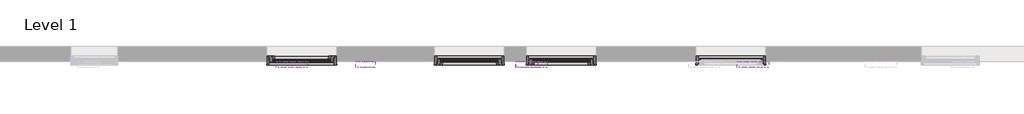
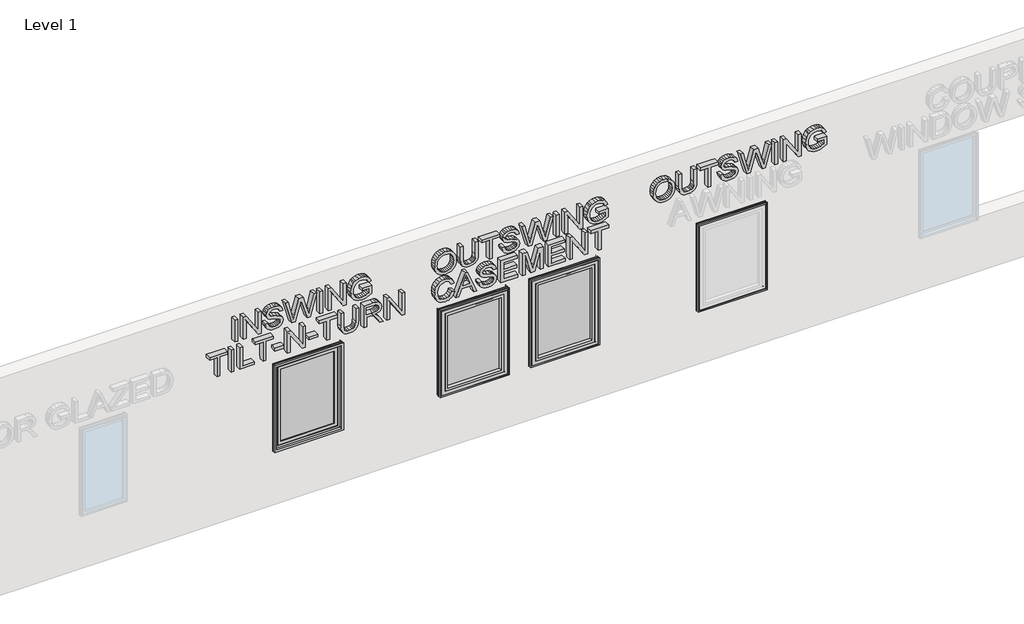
# One storey, part 2 of 4: 14 proxies.
"""IFC4 building model written with IfcOpenShell, lengths in millimetres."""

from ifc_helpers import new_model, si_unit, frame, origin, place, context, project, spatial, polyline, outline, extrude, transform, mapped, element, save
from components import awning_frame_default_150c298d, casement_frame_default_7da590ba, casement_frame_default_019ad32e, casement_glazing_default_a0a45db6, casement_glazing_default_e3ecf4c6, hopper_frame_default_f40292db, hopper_glazing_default_b8ed1175

model = new_model("IFC4")

# Units and contexts
model_context = context("Model", 3, world=origin())
ifc_project = project(units=[si_unit("LENGTHUNIT", "METRE", prefix="MILLI")], contexts=[model_context])

# Site, building, storey
site = spatial("IfcSite", under=ifc_project)
building = spatial("IfcBuilding", under=site)
storey = spatial("IfcBuildingStorey", under=building, Name="Level 1", Elevation=0.0)

# Proxies
placement = place(None, origin())
element("IfcBuildingElementProxy", 1, Name="600mm Arial", ObjectType="600mm Arial", at=placement, inside=storey, context=model_context, shape_type="SweptSolid", body=[
    extrude(outline(polyline([(2116.3469549, -12855.1897662), (2116.3469549, -12816.7090382), (2382.9590495, -12816.7090382), (2382.9590495, -12717.5934766), (2421.3372722, -12717.5934766), (2421.3372722, -12955.6525414), (2382.5343844, -12955.6525414), (2382.5343844, -12855.5997878), (2116.3469549, -12855.1897662)])), frame((0.0, 4149.5439366, 0.0), z_axis=(0.0, 1.0, 0.0), x_axis=(0.0, 0.0, 1.0)), (0.0, 0.0, 1.0), 76.2),
    extrude(outline(polyline([(2116.9180563, -12669.6536465), (2116.9180563, -12631.1143439), (2421.6008575, -12631.1143439), (2421.6008575, -12670.1222425), (2116.9180563, -12669.6536465)])), frame((0.0, 4149.5439366, 0.0), z_axis=(0.0, 1.0, 0.0), x_axis=(0.0, 0.0, 1.0)), (0.0, 0.0, 1.0), 76.2),
    extrude(outline(polyline([(2117.2695034, -12555.4415269), (2117.2695034, -12364.6193983), (2155.9259549, -12364.6193983), (2155.9259549, -12517.0193734), (2421.9523045, -12517.0193734), (2421.9523045, -12555.910123), (2117.2695034, -12555.4415269)])), frame((0.0, 4149.5439366, 0.0), z_axis=(0.0, 1.0, 0.0), x_axis=(0.0, 0.0, 1.0)), (0.0, 0.0, 1.0), 76.2),
    extrude(outline(polyline([(2118.2213391, -12246.058462), (2118.2213391, -12207.5777339), (2384.8334337, -12207.5777339), (2384.8334337, -12108.4621724), (2423.2116564, -12108.4621724), (2423.2116564, -12346.5212371), (2384.4087685, -12346.5212371), (2384.4087685, -12246.4684835), (2118.2213391, -12246.058462)])), frame((0.0, 4149.5439366, 0.0), z_axis=(0.0, 1.0, 0.0), x_axis=(0.0, 0.0, 1.0)), (0.0, 0.0, 1.0), 76.2),
    extrude(outline(polyline([(2209.1225067, -12088.9435794), (2209.1225067, -11969.9140471), (2247.5593039, -11969.9140471), (2247.5593039, -12089.0021539), (2209.1225067, -12088.9435794)])), frame((0.0, 4149.5439366, 0.0), z_axis=(0.0, 1.0, 0.0), x_axis=(0.0, 0.0, 1.0)), (0.0, 0.0, 1.0), 76.2),
    extrude(outline(polyline([(2119.2171057, -11922.5160311), (2119.2171057, -11883.9767285), (2360.6965855, -11883.9767285), (2119.823901, -11724.8530724), (2119.823901, -11684.1055193), (2424.5149391, -11684.1055193), (2424.5149391, -11723.1134179), (2183.1098162, -11723.1134179), (2423.9081439, -11882.237074), (2423.9081439, -11922.9846271), (2119.2171057, -11922.5160311)])), frame((0.0, 4149.5439366, 0.0), z_axis=(0.0, 1.0, 0.0), x_axis=(0.0, 0.0, 1.0)), (0.0, 0.0, 1.0), 76.2),
    extrude(outline(polyline([(2210.4990076, -11641.6127779), (2210.4990076, -11522.5832455), (2248.9358048, -11522.5832455), (2248.9358048, -11641.6713524), (2210.4990076, -11641.6127779)])), frame((0.0, 4149.5439366, 0.0), z_axis=(0.0, 1.0, 0.0), x_axis=(0.0, 0.0, 1.0)), (0.0, 0.0, 1.0), 76.2),
    extrude(outline(polyline([(2120.8279046, -11398.985242), (2120.8279046, -11360.5045139), (2387.4399992, -11360.5045139), (2387.4399992, -11261.3889524), (2425.8182219, -11261.3889524), (2425.8182219, -11499.4480171), (2387.0153341, -11499.4480171), (2387.0153341, -11399.3952635), (2120.8279046, -11398.985242)])), frame((0.0, 4149.5439366, 0.0), z_axis=(0.0, 1.0, 0.0), x_axis=(0.0, 0.0, 1.0)), (0.0, 0.0, 1.0), 76.2),
    extrude(outline(polyline([(2426.6236214, -11018.8053473), (2252.1982367, -11018.8053473), (2204.5206815, -11022.9367366), (2187.5859794, -11028.9029405), (2175.2539943, -11037.2906334), (2166.4685013, -11048.5148264), (2160.1732758, -11062.9905305), (2155.0536266, -11101.6964722), (2157.5065965, -11126.1304764), (2165.0284164, -11146.4904128), (2177.2214204, -11162.1244291), (2193.6879425, -11172.3806731), (2217.4926858, -11178.0865083), (2251.7003534, -11180.0692984), (2426.0671635, -11180.0692984), (2426.0671635, -11218.6765566), (2250.2447811, -11218.6765566), (2207.0244631, -11215.1122414), (2174.0274123, -11206.3387552), (2149.4534781, -11190.8339455), (2131.5025102, -11167.6163301), (2120.555616, -11136.6777871), (2116.9939028, -11098.0101945), (2121.3445593, -11058.5025428), (2134.1274522, -11027.4232418), (2153.623251, -11004.7112326), (2178.1126251, -10990.3054565), (2209.8217903, -10982.6512553), (2250.9769625, -10980.1939707), (2426.6821959, -10980.1939707), (2426.6236214, -11018.8053473)])), frame((0.0, 4149.5439366, 0.0), z_axis=(0.0, 1.0, 0.0), x_axis=(0.0, 0.0, 1.0)), (0.0, 0.0, 1.0), 76.2),
    extrude(outline(polyline([(2122.3215545, -10913.6423084), (2122.3215545, -10875.1030058), (2255.6861763, -10875.1030058), (2255.6861763, -10829.5604949), (2254.5571111, -10807.4723923), (2247.3630328, -10789.344191), (2227.6831817, -10769.1699153), (2185.9827233, -10740.4139392), (2122.9757127, -10700.587482), (2122.9757127, -10656.345157), (2205.4916798, -10707.3848601), (2244.5827843, -10738.3635334), (2260.8003514, -10760.051485), (2271.0096979, -10722.57881), (2279.1546717, -10708.0692953), (2289.3265124, -10696.3776626), (2314.2464987, -10680.9786793), (2344.2653606, -10675.9124964), (2368.3752821, -10679.1004086), (2390.2911032, -10688.5090143), (2407.9432443, -10703.1188234), (2419.2621257, -10721.9103459), (2425.3454826, -10747.5917157), (2427.2910504, -10782.8710665), (2427.2910504, -10914.1109044), (2122.3215545, -10913.6423084)]), holes=[polyline([(2293.887989, -10875.6301764), (2388.9336491, -10875.6301764), (2388.9336491, -10781.1180668), (2386.0277824, -10750.9841238), (2376.2208336, -10730.1803052), (2361.2936703, -10718.0605645), (2342.7354315, -10713.9788556), (2329.2796441, -10716.0473458), (2316.870457, -10722.3388476), (2306.5958254, -10732.6986991), (2299.5437043, -10746.9722382), (2295.4421191, -10765.9486771), (2294.0190953, -10790.4172278), (2293.887989, -10875.6301764)])]), frame((0.0, 4149.5439366, 0.0), z_axis=(0.0, 1.0, 0.0), x_axis=(0.0, 0.0, 1.0)), (0.0, 0.0, 1.0), 76.2),
    extrude(outline(polyline([(2123.2587466, -10609.0766562), (2123.2587466, -10570.5373537), (2364.7382264, -10570.5373537), (2123.8655419, -10411.4136975), (2123.8655419, -10370.6661445), (2428.55658, -10370.6661445), (2428.55658, -10409.6740431), (2187.1514571, -10409.6740431), (2427.9497848, -10568.7976992), (2427.9497848, -10609.5452523), (2123.2587466, -10609.0766562)])), frame((0.0, 4149.5439366, 0.0), z_axis=(0.0, 1.0, 0.0), x_axis=(0.0, 0.0, 1.0)), (0.0, 0.0, 1.0), 76.2),
])
element("IfcBuildingElementProxy", 2, Name="600mm Arial", ObjectType="600mm Arial", at=placement, inside=storey, context=model_context, shape_type="SweptSolid", body=[
    extrude(outline(polyline([(2645.3362822, -9973.8539131), (2606.3959733, -9969.3841714), (2569.5830158, -9956.2211422), (2537.6199283, -9934.6334544), (2513.2292298, -9904.8897372), (2497.8087998, -9868.8160521), (2492.7565183, -9828.2384604), (2497.5585778, -9790.0427497), (2511.721306, -9754.5713043), (2534.9766458, -9724.3607509), (2567.0565404, -9701.9477163), (2605.9695701, -9688.097532), (2649.7243153, -9683.5755299), (2692.874852, -9688.1325846), (2731.1649655, -9701.523232), (2763.0530097, -9723.3337614), (2786.9973383, -9753.1504626), (2801.9443726, -9789.0182078), (2806.8405335, -9828.9818692), (2804.0741374, -9859.5854316), (2795.9724093, -9887.2261584), (2782.5353491, -9911.9040496), (2763.7629569, -9933.6191052), (2740.2812461, -9951.309009), (2712.71623, -9963.9114449), (2681.0679087, -9971.426413), (2645.3362822, -9973.8539131)]), holes=[polyline([(2645.081647, -9935.7820626), (2675.9481691, -9933.8926261), (2702.0727128, -9928.0197635), (2723.455278, -9918.1634748), (2740.0958648, -9904.3237599), (2752.5902285, -9887.7200571), (2761.5341245, -9869.5718044), (2766.9275528, -9849.879002), (2768.7705134, -9828.6416497), (2765.171248, -9799.1570993), (2754.1826271, -9772.7170598), (2736.4694007, -9750.7735491), (2712.6963185, -9734.7785849), (2683.5968823, -9724.9853812), (2649.9045937, -9721.6471516), (2623.0791948, -9723.4537526), (2599.4859871, -9729.0485926), (2579.1249707, -9738.4316718), (2561.9961455, -9751.6029899), (2548.413498, -9767.7130488), (2538.6910143, -9785.9123502), (2532.8286944, -9806.2008939), (2530.8265384, -9828.57868), (2532.6735076, -9850.5918753), (2538.3558178, -9870.6789288), (2547.873469, -9888.8398405), (2561.2264612, -9905.0746103), (2577.9204073, -9918.4476003), (2597.4609203, -9928.0231723), (2619.8480002, -9933.8013264), (2645.081647, -9935.7820626)])]), frame((0.0, 4149.5439366, 0.0), z_axis=(0.0, 1.0, 0.0), x_axis=(0.0, 0.0, 1.0)), (0.0, 0.0, 1.0), 76.2),
    extrude(outline(polyline([(2803.3623261, -9431.8272969), (2628.9369414, -9431.8272969), (2581.2593862, -9435.9586861), (2564.3246841, -9441.9248901), (2551.992699, -9450.312583), (2543.207206, -9461.536776), (2536.9119805, -9476.0124801), (2531.7923313, -9514.7184218), (2534.2453012, -9539.152426), (2541.7671211, -9559.5123624), (2553.9601251, -9575.1463787), (2570.4266472, -9585.4026226), (2594.2313905, -9591.1084579), (2628.4390581, -9593.091248), (2802.8058683, -9593.091248), (2802.8058683, -9631.6985061), (2626.9834858, -9631.6985061), (2583.7631678, -9628.134191), (2550.766117, -9619.3607048), (2526.1921828, -9603.8558951), (2508.2412149, -9580.6382797), (2497.2943207, -9549.6997367), (2493.7326075, -9511.032144), (2498.083264, -9471.5244923), (2510.8661569, -9440.4451913), (2530.3619557, -9417.7331822), (2554.8513298, -9403.3274061), (2586.560495, -9395.6732048), (2627.7156672, -9393.2159202), (2803.4209006, -9393.2159202), (2803.3623261, -9431.8272969)])), frame((0.0, 4149.5439366, 0.0), z_axis=(0.0, 1.0, 0.0), x_axis=(0.0, 0.0, 1.0)), (0.0, 0.0, 1.0), 76.2),
    extrude(outline(polyline([(2499.2945572, -9250.4642704), (2499.2945572, -9211.9835423), (2765.9066518, -9211.9835423), (2765.9066518, -9112.8679808), (2804.2848745, -9112.8679808), (2804.2848745, -9350.9270455), (2765.4819867, -9350.9270455), (2765.4819867, -9250.8742919), (2499.2945572, -9250.4642704)])), frame((0.0, 4149.5439366, 0.0), z_axis=(0.0, 1.0, 0.0), x_axis=(0.0, 0.0, 1.0)), (0.0, 0.0, 1.0), 76.2),
    extrude(outline(polyline([(2604.5601016, -9083.8170676), (2573.7688701, -9079.2052775), (2546.4050377, -9067.2052772), (2523.9692068, -9048.5747349), (2508.0205547, -9024.0713184), (2498.5229898, -8993.3417185), (2495.4404205, -8956.0326256), (2498.4988959, -8925.657682), (2507.4775486, -8898.479741), (2521.7864995, -8875.9004862), (2540.8358698, -8859.3216014), (2562.9420488, -8849.1561671), (2586.4214257, -8845.8172638), (2609.369979, -8848.8528872), (2629.4375464, -8857.8096602), (2646.4372632, -8873.0030275), (2660.1822649, -8894.7484335), (2669.00836, -8920.1686969), (2679.0846762, -8962.1745417), (2689.7040835, -9002.8808005), (2700.1594525, -9024.4023059), (2711.8984522, -9033.5286393), (2726.5188383, -9036.6036986), (2743.6898375, -9032.3809769), (2758.1731245, -9019.5988662), (2768.0564701, -8997.4521386), (2771.4276452, -8965.1355661), (2768.215951, -8933.5423128), (2758.3593838, -8910.7399822), (2742.0085447, -8896.115588), (2719.3140353, -8889.0561437), (2719.3140353, -8850.9854372), (2744.6435316, -8855.3571679), (2767.0474766, -8866.2265426), (2785.4912315, -8883.348355), (2798.823009, -8906.4773989), (2806.878595, -8934.609342), (2809.4937755, -8966.7398521), (2806.8093438, -8996.3816659), (2798.9473309, -9023.1447817), (2786.0892823, -9045.4217762), (2768.4167435, -9061.6052258), (2747.5942498, -9071.4400012), (2725.2863366, -9074.670973), (2705.3483203, -9071.9420437), (2687.4715343, -9063.8843026), (2671.9908704, -9050.4058334), (2659.2412203, -9031.4147197), (2650.1576784, -9008.1035596), (2640.6497334, -8971.685575), (2626.2835448, -8916.2078126), (2618.4424185, -8899.936559), (2609.0752022, -8890.2784317), (2598.0756804, -8885.5042906), (2585.3376376, -8883.8849958), (2572.2536345, -8885.95463), (2559.7700906, -8892.2459031), (2548.8812427, -8902.8548213), (2540.5813277, -8917.877391), (2535.3099093, -8936.4319689), (2533.5065508, -8957.6369116), (2535.7281852, -8981.7355949), (2542.5491344, -9003.3202743), (2553.1092901, -9020.9940988), (2566.5485442, -9033.3602177), (2583.5054788, -9041.3128865), (2604.6186761, -9045.7463611), (2604.5601016, -9083.8170676)])), frame((0.0, 4149.5439366, 0.0), z_axis=(0.0, 1.0, 0.0), x_axis=(0.0, 0.0, 1.0)), (0.0, 0.0, 1.0), 76.2),
    extrude(outline(polyline([(2500.8827043, -8733.9433623), (2500.8827043, -8687.9908298), (2729.5044142, -8622.1438867), (2769.023137, -8610.8144283), (2736.2631133, -8600.5266363), (2501.5201596, -8526.7851819), (2501.5201596, -8486.1119857), (2806.4667749, -8403.9182209), (2806.4667749, -8443.178637), (2604.2431244, -8491.1865772), (2544.192759, -8505.4271588), (2600.066494, -8519.4481845), (2655.7762996, -8538.413483), (2805.9164948, -8582.746442), (2805.9164948, -8639.3320038), (2598.2496879, -8699.071852), (2543.5484395, -8714.8160447), (2605.2932194, -8729.8775527), (2805.3135893, -8778.6767382), (2805.3135893, -8817.9371543), (2500.8827043, -8733.9433623)])), frame((0.0, 4149.5439366, 0.0), z_axis=(0.0, 1.0, 0.0), x_axis=(0.0, 0.0, 1.0)), (0.0, 0.0, 1.0), 76.2),
    extrude(outline(polyline([(2502.0329154, -8360.6200801), (2502.0329154, -8322.0807775), (2806.7157165, -8322.0807775), (2806.7157165, -8361.0886761), (2502.0329154, -8360.6200801)])), frame((0.0, 4149.5439366, 0.0), z_axis=(0.0, 1.0, 0.0), x_axis=(0.0, 0.0, 1.0)), (0.0, 0.0, 1.0), 76.2),
    extrude(outline(polyline([(2502.3843624, -8246.4079605), (2502.3843624, -8207.8686579), (2743.8638422, -8207.8686579), (2502.9911577, -8048.7450018), (2502.9911577, -8007.9974487), (2807.6821959, -8007.9974487), (2807.6821959, -8047.0053473), (2566.2770729, -8047.0053473), (2807.0754006, -8206.1290035), (2807.0754006, -8246.8765566), (2502.3843624, -8246.4079605)])), frame((0.0, 4149.5439366, 0.0), z_axis=(0.0, 1.0, 0.0), x_axis=(0.0, 0.0, 1.0)), (0.0, 0.0, 1.0), 76.2),
    extrude(outline(polyline([(2622.7318211, -7799.0332281), (2622.7318211, -7713.3155639), (2567.9713384, -7713.3155639), (2557.1675707, -7729.3322434), (2546.9956061, -7751.6360927), (2539.5830234, -7777.3317017), (2537.0574014, -7803.6929771), (2540.2093245, -7833.5665282), (2549.8540879, -7861.7684243), (2566.1942861, -7885.8919631), (2589.4325134, -7903.5304423), (2619.3559948, -7914.3578928), (2655.7519555, -7918.0483456), (2686.8050921, -7915.1695984), (2715.5714709, -7906.3352104), (2744.9655383, -7886.832445), (2757.0748403, -7872.2770373), (2766.6310722, -7853.7356444), (2772.8625242, -7831.2895439), (2774.9974867, -7805.0200132), (2773.1611635, -7782.5676764), (2767.507588, -7762.2041942), (2758.6744557, -7745.111955), (2747.2994621, -7732.4733473), (2732.1878647, -7722.8997853), (2712.1449206, -7715.0026832), (2722.1423783, -7679.9366819), (2750.2473202, -7689.7175308), (2772.4483276, -7703.1051431), (2789.5693598, -7721.1616494), (2802.4343763, -7744.9491803), (2810.4617925, -7773.1739837), (2813.0700237, -7804.5423075), (2808.272682, -7847.2459594), (2794.1598011, -7884.6415599), (2783.5437415, -7900.9931147), (2770.4662133, -7915.3062047), (2736.926751, -7937.8169897), (2696.9821916, -7951.6082316), (2654.0733127, -7956.1142472), (2611.4997567, -7951.3266005), (2573.1560206, -7937.2386861), (2541.2257935, -7914.0338227), (2517.8927644, -7881.8953291), (2503.6513773, -7843.2506417), (2498.996076, -7800.5271973), (2502.1081175, -7767.8473344), (2511.2406041, -7735.9853409), (2526.3375393, -7705.0154022), (2547.3429266, -7675.0117034), (2661.183262, -7675.0117034), (2661.183262, -7799.0918026), (2622.7318211, -7799.0332281)])), frame((0.0, 4149.5439366, 0.0), z_axis=(0.0, 1.0, 0.0), x_axis=(0.0, 0.0, 1.0)), (0.0, 0.0, 1.0), 76.2),
])
element("IfcBuildingElementProxy", 3, Name="600mm Arial", ObjectType="600mm Arial", at=placement, inside=storey, context=model_context, shape_type="SweptSolid", body=[
    extrude(outline(polyline([(2225.0351917, -9745.3065761), (2192.3918175, -9757.5215974), (2168.8707113, -9777.4421066), (2154.6242479, -9803.8788516), (2149.8048018, -9835.6425806), (2153.1878036, -9862.9143284), (2163.5107021, -9888.2183666), (2180.8546326, -9909.3521026), (2205.3007303, -9924.1129434), (2235.6861685, -9932.8226252), (2270.8481202, -9935.802884), (2299.5759179, -9933.4653684), (2327.4635413, -9926.2734371), (2352.1536501, -9913.0858837), (2371.2889034, -9892.7615014), (2383.5846722, -9865.9376713), (2387.7563274, -9833.2517743), (2384.1722477, -9804.8733392), (2373.229184, -9781.7516457), (2354.2400217, -9763.6615068), (2326.5176465, -9750.3777355), (2335.7063311, -9712.3349434), (2373.8740124, -9729.2664924), (2389.3221241, -9741.2414446), (2402.3464165, -9755.5558487), (2412.6735282, -9771.9393173), (2420.0300977, -9790.1214631), (2424.4161249, -9810.1022861), (2425.83161, -9831.8817863), (2421.1316482, -9870.1242848), (2407.2775011, -9904.9925246), (2384.610324, -9934.3590706), (2353.4712726, -9956.0964877), (2315.0801136, -9969.5021325), (2270.6566144, -9973.8733617), (2228.5643186, -9969.7564139), (2189.2849441, -9957.6732744), (2155.903242, -9937.977339), (2131.5039632, -9911.0220036), (2122.8035506, -9894.5970671), (2116.6103799, -9875.9072931), (2111.7457644, -9831.7332323), (2113.4676094, -9809.0780665), (2118.4880812, -9788.254811), (2126.8071797, -9769.263466), (2138.4249048, -9752.1040313), (2153.1822044, -9737.115274), (2170.9200263, -9724.6359608), (2191.6383704, -9714.6660918), (2215.3372367, -9707.2056671), (2225.0351917, -9745.3065761)])), frame((0.0, 4149.5439366, 0.0), z_axis=(0.0, 1.0, 0.0), x_axis=(0.0, 0.0, 1.0)), (0.0, 0.0, 1.0), 76.2),
    extrude(outline(polyline([(2116.9407082, -9690.0237224), (2116.9407082, -9649.7966673), (2212.3483404, -9615.2905346), (2212.3483404, -9489.8505309), (2117.6648813, -9454.6842964), (2117.6648813, -9414.4572412), (2421.9802189, -9536.9678809), (2421.9802189, -9569.3874669), (2116.9407082, -9690.0237224)]), holes=[polyline([(2250.6121597, -9601.4285961), (2331.9745633, -9571.8620431), (2383.8596326, -9553.0605249), (2325.5551739, -9531.5404961), (2250.7622569, -9503.8724106), (2250.6121597, -9601.4285961)])]), frame((0.0, 4149.5439366, 0.0), z_axis=(0.0, 1.0, 0.0), x_axis=(0.0, 0.0, 1.0)), (0.0, 0.0, 1.0), 76.2),
    extrude(outline(polyline([(2222.6229095, -9388.3827197), (2191.8316781, -9383.7709296), (2164.4678456, -9371.7709294), (2142.0320147, -9353.140387), (2126.0833626, -9328.6369706), (2116.5857977, -9297.9073706), (2113.5032284, -9260.5982777), (2116.5617038, -9230.2233341), (2125.5403565, -9203.0453931), (2139.8493074, -9180.4661384), (2158.8986778, -9163.8872536), (2181.0048567, -9153.7218193), (2204.4842336, -9150.3829159), (2227.4327869, -9153.4185393), (2247.5003543, -9162.3753124), (2264.5000711, -9177.5686796), (2278.2450728, -9199.3140856), (2287.0711679, -9224.734349), (2297.1474841, -9266.7401938), (2307.7668915, -9307.4464526), (2318.2222604, -9328.967958), (2329.9612601, -9338.0942914), (2344.5816462, -9341.1693507), (2361.7526454, -9336.9466291), (2376.2359324, -9324.1645184), (2386.119278, -9302.0177907), (2389.4904531, -9269.7012183), (2386.2787589, -9238.1079649), (2376.4221917, -9215.3056343), (2360.0713526, -9200.6812401), (2337.3768432, -9193.6217959), (2337.3768432, -9155.5510894), (2362.7063395, -9159.92282), (2385.1102845, -9170.7921947), (2403.5540394, -9187.9140071), (2416.8858169, -9211.0430511), (2424.941403, -9239.1749942), (2427.5565834, -9271.3055042), (2424.8721517, -9300.947318), (2417.0101388, -9327.7104339), (2404.1520902, -9349.9874283), (2386.4795514, -9366.170878), (2365.6570577, -9376.0056534), (2343.3491445, -9379.2366251), (2323.4111282, -9376.5076958), (2305.5343422, -9368.4499548), (2290.0536783, -9354.9714856), (2277.3040282, -9335.9803718), (2268.2204863, -9312.6692118), (2258.7125413, -9276.2512271), (2244.3463527, -9220.7734647), (2236.5052264, -9204.5022112), (2227.1380101, -9194.8440838), (2216.1384883, -9190.0699427), (2203.4004455, -9188.450648), (2190.3164424, -9190.5202822), (2177.8328985, -9196.8115552), (2166.9440506, -9207.4204734), (2158.6441357, -9222.4430431), (2153.3727172, -9240.997621), (2151.5693587, -9262.2025637), (2153.7909931, -9286.3012471), (2160.6119423, -9307.8859264), (2171.172098, -9325.5597509), (2184.6113521, -9337.9258698), (2201.5682867, -9345.8785387), (2222.681484, -9350.3120132), (2222.6229095, -9388.3827197)])), frame((0.0, 4149.5439366, 0.0), z_axis=(0.0, 1.0, 0.0), x_axis=(0.0, 0.0, 1.0)), (0.0, 0.0, 1.0), 76.2),
    extrude(outline(polyline([(2118.7777969, -9093.4811805), (2118.7777969, -8869.3471837), (2157.5367539, -8869.3471837), (2157.5367539, -9055.059027), (2256.901257, -9055.059027), (2256.901257, -8884.0483638), (2295.4991341, -8884.0483638), (2295.4991341, -9055.4836921), (2385.3898915, -9055.4836921), (2385.3898915, -8874.9260651), (2424.0170558, -8874.9260651), (2424.0170558, -9093.9497766), (2118.7777969, -9093.4811805)])), frame((0.0, 4149.5439366, 0.0), z_axis=(0.0, 1.0, 0.0), x_axis=(0.0, 0.0, 1.0)), (0.0, 0.0, 1.0), 76.2),
    extrude(outline(polyline([(2119.6417709, -8812.7097199), (2119.6417709, -8774.1704174), (2386.2538655, -8774.1704174), (2119.9943619, -8697.6572201), (2119.9943619, -8646.0535671), (2386.8835414, -8570.3604129), (2120.3885958, -8570.3604129), (2120.3885958, -8531.4696633), (2425.0713969, -8531.4696633), (2425.0713969, -8597.9152391), (2213.7309019, -8658.5361579), (2165.1340081, -8671.9940505), (2209.9325195, -8684.6983283), (2424.4090017, -8747.6699323), (2424.4090017, -8813.178316), (2119.6417709, -8812.7097199)])), frame((0.0, 4149.5439366, 0.0), z_axis=(0.0, 1.0, 0.0), x_axis=(0.0, 0.0, 1.0)), (0.0, 0.0, 1.0), 76.2),
    extrude(outline(polyline([(2120.7107556, -8465.314523), (2120.7107556, -8241.1805261), (2159.4697125, -8241.1805261), (2159.4697125, -8426.8923694), (2258.8342157, -8426.8923694), (2258.8342157, -8255.8817063), (2297.4320928, -8255.8817063), (2297.4320928, -8427.3170346), (2387.3228502, -8427.3170346), (2387.3228502, -8246.7594075), (2425.9500145, -8246.7594075), (2425.9500145, -8465.783119), (2120.7107556, -8465.314523)])), frame((0.0, 4149.5439366, 0.0), z_axis=(0.0, 1.0, 0.0), x_axis=(0.0, 0.0, 1.0)), (0.0, 0.0, 1.0), 76.2),
    extrude(outline(polyline([(2121.5747295, -8184.5430624), (2121.5747295, -8146.0037599), (2363.0542093, -8146.0037599), (2122.1815248, -7986.8801037), (2122.1815248, -7946.1325506), (2426.872563, -7946.1325506), (2426.872563, -7985.1404492), (2185.4674401, -7985.1404492), (2426.2657677, -8144.2641054), (2426.2657677, -8185.0116585), (2121.5747295, -8184.5430624)])), frame((0.0, 4149.5439366, 0.0), z_axis=(0.0, 1.0, 0.0), x_axis=(0.0, 0.0, 1.0)), (0.0, 0.0, 1.0), 76.2),
    extrude(outline(polyline([(2122.7462197, -7803.7774227), (2122.7462197, -7765.2966947), (2389.3583143, -7765.2966947), (2389.3583143, -7666.1811332), (2427.736537, -7666.1811332), (2427.736537, -7904.2401979), (2388.9336491, -7904.2401979), (2388.9336491, -7804.1874443), (2122.7462197, -7803.7774227)])), frame((0.0, 4149.5439366, 0.0), z_axis=(0.0, 1.0, 0.0), x_axis=(0.0, 0.0, 1.0)), (0.0, 0.0, 1.0), 76.2),
])
element("IfcBuildingElementProxy", 4, Name="600mm Arial", ObjectType="600mm Arial", at=placement, inside=storey, context=model_context, shape_type="SweptSolid", body=[
    extrude(outline(polyline([(2645.3362822, -7078.2539131), (2606.3959733, -7073.7841714), (2569.5830158, -7060.6211422), (2537.6199283, -7039.0334544), (2513.2292298, -7009.2897372), (2497.8087998, -6973.2160521), (2492.7565183, -6932.6384604), (2497.5585778, -6894.4427497), (2511.721306, -6858.9713043), (2534.9766458, -6828.7607509), (2567.0565404, -6806.3477163), (2605.9695701, -6792.497532), (2649.7243153, -6787.9755299), (2692.874852, -6792.5325846), (2731.1649655, -6805.923232), (2763.0530097, -6827.7337614), (2786.9973383, -6857.5504626), (2801.9443726, -6893.4182078), (2806.8405335, -6933.3818692), (2804.0741374, -6963.9854316), (2795.9724093, -6991.6261584), (2782.5353491, -7016.3040496), (2763.7629569, -7038.0191052), (2740.2812461, -7055.709009), (2712.71623, -7068.3114449), (2681.0679087, -7075.826413), (2645.3362822, -7078.2539131)]), holes=[polyline([(2645.081647, -7040.1820626), (2675.9481691, -7038.2926261), (2702.0727128, -7032.4197635), (2723.455278, -7022.5634748), (2740.0958648, -7008.7237599), (2752.5902285, -6992.1200571), (2761.5341245, -6973.9718044), (2766.9275528, -6954.279002), (2768.7705134, -6933.0416497), (2765.171248, -6903.5570993), (2754.1826271, -6877.1170598), (2736.4694007, -6855.1735491), (2712.6963185, -6839.1785849), (2683.5968823, -6829.3853812), (2649.9045937, -6826.0471516), (2623.0791948, -6827.8537526), (2599.4859871, -6833.4485926), (2579.1249707, -6842.8316718), (2561.9961455, -6856.0029899), (2548.413498, -6872.1130488), (2538.6910143, -6890.3123502), (2532.8286944, -6910.6008939), (2530.8265384, -6932.97868), (2532.6735076, -6954.9918753), (2538.3558178, -6975.0789288), (2547.873469, -6993.2398405), (2561.2264612, -7009.4746103), (2577.9204073, -7022.8476003), (2597.4609203, -7032.4231723), (2619.8480002, -7038.2013264), (2645.081647, -7040.1820626)])]), frame((0.0, 4149.5439366, 0.0), z_axis=(0.0, 1.0, 0.0), x_axis=(0.0, 0.0, 1.0)), (0.0, 0.0, 1.0), 76.2),
    extrude(outline(polyline([(2803.3623261, -6536.2272969), (2628.9369414, -6536.2272969), (2581.2593862, -6540.3586861), (2564.3246841, -6546.3248901), (2551.992699, -6554.712583), (2543.207206, -6565.936776), (2536.9119805, -6580.4124801), (2531.7923313, -6619.1184218), (2534.2453012, -6643.552426), (2541.7671211, -6663.9123624), (2553.9601251, -6679.5463787), (2570.4266472, -6689.8026226), (2594.2313905, -6695.5084579), (2628.4390581, -6697.491248), (2802.8058683, -6697.491248), (2802.8058683, -6736.0985061), (2626.9834858, -6736.0985061), (2583.7631678, -6732.534191), (2550.766117, -6723.7607048), (2526.1921828, -6708.2558951), (2508.2412149, -6685.0382797), (2497.2943207, -6654.0997367), (2493.7326075, -6615.432144), (2498.083264, -6575.9244923), (2510.8661569, -6544.8451913), (2530.3619557, -6522.1331822), (2554.8513298, -6507.7274061), (2586.560495, -6500.0732048), (2627.7156672, -6497.6159202), (2803.4209006, -6497.6159202), (2803.3623261, -6536.2272969)])), frame((0.0, 4149.5439366, 0.0), z_axis=(0.0, 1.0, 0.0), x_axis=(0.0, 0.0, 1.0)), (0.0, 0.0, 1.0), 76.2),
    extrude(outline(polyline([(2499.2945572, -6354.8642704), (2499.2945572, -6316.3835423), (2765.9066518, -6316.3835423), (2765.9066518, -6217.2679808), (2804.2848745, -6217.2679808), (2804.2848745, -6455.3270455), (2765.4819867, -6455.3270455), (2765.4819867, -6355.2742919), (2499.2945572, -6354.8642704)])), frame((0.0, 4149.5439366, 0.0), z_axis=(0.0, 1.0, 0.0), x_axis=(0.0, 0.0, 1.0)), (0.0, 0.0, 1.0), 76.2),
    extrude(outline(polyline([(2604.5601016, -6188.2170676), (2573.7688701, -6183.6052775), (2546.4050377, -6171.6052772), (2523.9692068, -6152.9747349), (2508.0205547, -6128.4713184), (2498.5229898, -6097.7417185), (2495.4404205, -6060.4326256), (2498.4988959, -6030.057682), (2507.4775486, -6002.879741), (2521.7864995, -5980.3004862), (2540.8358698, -5963.7216014), (2562.9420488, -5953.5561671), (2586.4214257, -5950.2172638), (2609.369979, -5953.2528872), (2629.4375464, -5962.2096602), (2646.4372632, -5977.4030275), (2660.1822649, -5999.1484335), (2669.00836, -6024.5686969), (2679.0846762, -6066.5745417), (2689.7040835, -6107.2808005), (2700.1594525, -6128.8023059), (2711.8984522, -6137.9286393), (2726.5188383, -6141.0036986), (2743.6898375, -6136.7809769), (2758.1731245, -6123.9988662), (2768.0564701, -6101.8521386), (2771.4276452, -6069.5355661), (2768.215951, -6037.9423128), (2758.3593838, -6015.1399822), (2742.0085447, -6000.515588), (2719.3140353, -5993.4561437), (2719.3140353, -5955.3854372), (2744.6435316, -5959.7571679), (2767.0474766, -5970.6265426), (2785.4912315, -5987.748355), (2798.823009, -6010.8773989), (2806.878595, -6039.009342), (2809.4937755, -6071.1398521), (2806.8093438, -6100.7816659), (2798.9473309, -6127.5447817), (2786.0892823, -6149.8217762), (2768.4167435, -6166.0052258), (2747.5942498, -6175.8400012), (2725.2863366, -6179.070973), (2705.3483203, -6176.3420437), (2687.4715343, -6168.2843026), (2671.9908704, -6154.8058334), (2659.2412203, -6135.8147197), (2650.1576784, -6112.5035596), (2640.6497334, -6076.085575), (2626.2835448, -6020.6078126), (2618.4424185, -6004.336559), (2609.0752022, -5994.6784317), (2598.0756804, -5989.9042906), (2585.3376376, -5988.2849958), (2572.2536345, -5990.35463), (2559.7700906, -5996.6459031), (2548.8812427, -6007.2548213), (2540.5813277, -6022.277391), (2535.3099093, -6040.8319689), (2533.5065508, -6062.0369116), (2535.7281852, -6086.1355949), (2542.5491344, -6107.7202743), (2553.1092901, -6125.3940988), (2566.5485442, -6137.7602177), (2583.5054788, -6145.7128865), (2604.6186761, -6150.1463611), (2604.5601016, -6188.2170676)])), frame((0.0, 4149.5439366, 0.0), z_axis=(0.0, 1.0, 0.0), x_axis=(0.0, 0.0, 1.0)), (0.0, 0.0, 1.0), 76.2),
    extrude(outline(polyline([(2500.8827043, -5838.3433623), (2500.8827043, -5792.3908298), (2729.5044142, -5726.5438867), (2769.023137, -5715.2144283), (2736.2631133, -5704.9266363), (2501.5201596, -5631.1851819), (2501.5201596, -5590.5119857), (2806.4667749, -5508.3182209), (2806.4667749, -5547.578637), (2604.2431244, -5595.5865772), (2544.192759, -5609.8271588), (2600.066494, -5623.8481845), (2655.7762996, -5642.813483), (2805.9164948, -5687.146442), (2805.9164948, -5743.7320038), (2598.2496879, -5803.471852), (2543.5484395, -5819.2160447), (2605.2932194, -5834.2775527), (2805.3135893, -5883.0767382), (2805.3135893, -5922.3371543), (2500.8827043, -5838.3433623)])), frame((0.0, 4149.5439366, 0.0), z_axis=(0.0, 1.0, 0.0), x_axis=(0.0, 0.0, 1.0)), (0.0, 0.0, 1.0), 76.2),
    extrude(outline(polyline([(2502.0329154, -5465.0200801), (2502.0329154, -5426.4807775), (2806.7157165, -5426.4807775), (2806.7157165, -5465.4886761), (2502.0329154, -5465.0200801)])), frame((0.0, 4149.5439366, 0.0), z_axis=(0.0, 1.0, 0.0), x_axis=(0.0, 0.0, 1.0)), (0.0, 0.0, 1.0), 76.2),
    extrude(outline(polyline([(2502.3843624, -5350.8079605), (2502.3843624, -5312.2686579), (2743.8638422, -5312.2686579), (2502.9911577, -5153.1450018), (2502.9911577, -5112.3974487), (2807.6821959, -5112.3974487), (2807.6821959, -5151.4053473), (2566.2770729, -5151.4053473), (2807.0754006, -5310.5290035), (2807.0754006, -5351.2765566), (2502.3843624, -5350.8079605)])), frame((0.0, 4149.5439366, 0.0), z_axis=(0.0, 1.0, 0.0), x_axis=(0.0, 0.0, 1.0)), (0.0, 0.0, 1.0), 76.2),
    extrude(outline(polyline([(2622.7318211, -4903.4332281), (2622.7318211, -4817.7155639), (2567.9713384, -4817.7155639), (2557.1675707, -4833.7322434), (2546.9956061, -4856.0360927), (2539.5830234, -4881.7317017), (2537.0574014, -4908.0929771), (2540.2093245, -4937.9665282), (2549.8540879, -4966.1684243), (2566.1942861, -4990.2919631), (2589.4325134, -5007.9304423), (2619.3559948, -5018.7578928), (2655.7519555, -5022.4483456), (2686.8050921, -5019.5695984), (2715.5714709, -5010.7352104), (2744.9655383, -4991.232445), (2757.0748403, -4976.6770373), (2766.6310722, -4958.1356444), (2772.8625242, -4935.6895439), (2774.9974867, -4909.4200132), (2773.1611635, -4886.9676764), (2767.507588, -4866.6041942), (2758.6744557, -4849.511955), (2747.2994621, -4836.8733473), (2732.1878647, -4827.2997853), (2712.1449206, -4819.4026832), (2722.1423783, -4784.3366819), (2750.2473202, -4794.1175308), (2772.4483276, -4807.5051431), (2789.5693598, -4825.5616494), (2802.4343763, -4849.3491803), (2810.4617925, -4877.5739837), (2813.0700237, -4908.9423075), (2808.272682, -4951.6459594), (2794.1598011, -4989.0415599), (2783.5437415, -5005.3931147), (2770.4662133, -5019.7062047), (2736.926751, -5042.2169897), (2696.9821916, -5056.0082316), (2654.0733127, -5060.5142472), (2611.4997567, -5055.7266005), (2573.1560206, -5041.6386861), (2541.2257935, -5018.4338227), (2517.8927644, -4986.2953291), (2503.6513773, -4947.6506417), (2498.996076, -4904.9271973), (2502.1081175, -4872.2473344), (2511.2406041, -4840.3853409), (2526.3375393, -4809.4154022), (2547.3429266, -4779.4117034), (2661.183262, -4779.4117034), (2661.183262, -4903.4918026), (2622.7318211, -4903.4332281)])), frame((0.0, 4149.5439366, 0.0), z_axis=(0.0, 1.0, 0.0), x_axis=(0.0, 0.0, 1.0)), (0.0, 0.0, 1.0), 76.2),
])
element("IfcBuildingElementProxy", 5, Name="600mm Arial", ObjectType="600mm Arial", at=placement, inside=storey, context=model_context, shape_type="SweptSolid", body=[
    extrude(outline(polyline([(2522.5273005, -12621.8309154), (2522.5273005, -12583.2916129), (2827.2101017, -12583.2916129), (2827.2101017, -12622.2995115), (2522.5273005, -12621.8309154)])), frame((0.0, 4149.5439366, 0.0), z_axis=(0.0, 1.0, 0.0), x_axis=(0.0, 0.0, 1.0)), (0.0, 0.0, 1.0), 76.2),
    extrude(outline(polyline([(2522.8787475, -12507.6187959), (2522.8787475, -12469.0794933), (2764.3582273, -12469.0794933), (2523.4855428, -12309.9558372), (2523.4855428, -12269.2082841), (2828.176581, -12269.2082841), (2828.176581, -12308.2161827), (2586.7714581, -12308.2161827), (2827.5697857, -12467.3398389), (2827.5697857, -12508.0873919), (2522.8787475, -12507.6187959)])), frame((0.0, 4149.5439366, 0.0), z_axis=(0.0, 1.0, 0.0), x_axis=(0.0, 0.0, 1.0)), (0.0, 0.0, 1.0), 76.2),
    extrude(outline(polyline([(2628.5250262, -12217.1832224), (2597.7337948, -12212.5714323), (2570.3699623, -12200.5714321), (2547.9341314, -12181.9408897), (2531.9854793, -12157.4374733), (2522.4879144, -12126.7078733), (2519.4053451, -12089.3987804), (2522.4638205, -12059.0238368), (2531.4424732, -12031.8458958), (2545.7514241, -12009.2666411), (2564.8007945, -11992.6877563), (2586.9069734, -11982.522322), (2610.3863503, -11979.1834186), (2633.3349036, -11982.219042), (2653.402471, -11991.175815), (2670.4021878, -12006.3691823), (2684.1471895, -12028.1145883), (2692.9732846, -12053.5348517), (2703.0496008, -12095.5406965), (2713.6690082, -12136.2469553), (2724.1243771, -12157.7684607), (2735.8633768, -12166.8947941), (2750.4837629, -12169.9698534), (2767.6547621, -12165.7471318), (2782.1380491, -12152.9650211), (2792.0213947, -12130.8182934), (2795.3925698, -12098.501721), (2792.1808756, -12066.9084676), (2782.3243084, -12044.106137), (2765.9734694, -12029.4817428), (2743.2789599, -12022.4222986), (2743.2789599, -11984.3515921), (2768.6084562, -11988.7233227), (2791.0124012, -11999.5926974), (2809.4561561, -12016.7145098), (2822.7879336, -12039.8435538), (2830.8435197, -12067.9754969), (2833.4587002, -12100.1060069), (2830.7742684, -12129.7478207), (2822.9122555, -12156.5109366), (2810.0542069, -12178.787931), (2792.3816681, -12194.9713807), (2771.5591745, -12204.8061561), (2749.2512612, -12208.0371278), (2729.3132449, -12205.3081985), (2711.4364589, -12197.2504575), (2695.955795, -12183.7719883), (2683.2061449, -12164.7808745), (2674.122603, -12141.4697145), (2664.614658, -12105.0517298), (2650.2484694, -12049.5739674), (2642.4073431, -12033.3027139), (2633.0401268, -12023.6445865), (2622.040605, -12018.8704454), (2609.3025622, -12017.2511507), (2596.2185591, -12019.3207849), (2583.7350152, -12025.6120579), (2572.8461673, -12036.2209761), (2564.5462524, -12051.2435458), (2559.2748339, -12069.7981237), (2557.4714754, -12091.0030664), (2559.6931098, -12115.1017498), (2566.514059, -12136.6864291), (2577.0742147, -12154.3602536), (2590.5134688, -12166.7263725), (2607.4704035, -12174.6790414), (2628.5836007, -12179.1125159), (2628.5250262, -12217.1832224)])), frame((0.0, 4149.5439366, 0.0), z_axis=(0.0, 1.0, 0.0), x_axis=(0.0, 0.0, 1.0)), (0.0, 0.0, 1.0), 76.2),
    extrude(outline(polyline([(2524.8476289, -11867.3095171), (2524.8476289, -11821.3569846), (2753.4693388, -11755.5100415), (2792.9880616, -11744.1805832), (2760.2280379, -11733.8927911), (2525.4850842, -11660.1513367), (2525.4850842, -11619.4781405), (2830.4316995, -11537.2843758), (2830.4316995, -11576.5447919), (2628.208049, -11624.552732), (2568.1576837, -11638.7933137), (2624.0314186, -11652.8143393), (2679.7412242, -11671.7796378), (2829.8814194, -11716.1125968), (2829.8814194, -11772.6981586), (2622.2146125, -11832.4380068), (2567.5133641, -11848.1821995), (2629.258144, -11863.2437076), (2829.2785139, -11912.042893), (2829.2785139, -11951.3033091), (2524.8476289, -11867.3095171)])), frame((0.0, 4149.5439366, 0.0), z_axis=(0.0, 1.0, 0.0), x_axis=(0.0, 0.0, 1.0)), (0.0, 0.0, 1.0), 76.2),
    extrude(outline(polyline([(2525.99784, -11493.9862349), (2525.99784, -11455.4469323), (2830.6806411, -11455.4469323), (2830.6806411, -11494.4548309), (2525.99784, -11493.9862349)])), frame((0.0, 4149.5439366, 0.0), z_axis=(0.0, 1.0, 0.0), x_axis=(0.0, 0.0, 1.0)), (0.0, 0.0, 1.0), 76.2),
    extrude(outline(polyline([(2526.349287, -11379.7741153), (2526.349287, -11341.2348128), (2767.8287668, -11341.2348128), (2526.9560823, -11182.1111566), (2526.9560823, -11141.3636036), (2831.6471205, -11141.3636036), (2831.6471205, -11180.3715022), (2590.2419975, -11180.3715022), (2831.0403252, -11339.4951583), (2831.0403252, -11380.2427114), (2526.349287, -11379.7741153)])), frame((0.0, 4149.5439366, 0.0), z_axis=(0.0, 1.0, 0.0), x_axis=(0.0, 0.0, 1.0)), (0.0, 0.0, 1.0), 76.2),
    extrude(outline(polyline([(2646.6967458, -10932.3993829), (2646.6967458, -10846.6817187), (2591.936263, -10846.6817187), (2581.1324953, -10862.6983982), (2570.9605307, -10885.0022476), (2563.547948, -10910.6978565), (2561.022326, -10937.059132), (2564.1742491, -10966.932683), (2573.8190125, -10995.1345791), (2590.1592107, -11019.2581179), (2613.397438, -11036.8965971), (2643.3209194, -11047.7240476), (2679.7168801, -11051.4145004), (2710.7700167, -11048.5357533), (2739.5363955, -11039.7013652), (2768.9304629, -11020.1985998), (2781.0397649, -11005.6431921), (2790.5959968, -10987.1017992), (2796.8274488, -10964.6556987), (2798.9624113, -10938.3861681), (2797.1260881, -10915.9338312), (2791.4725126, -10895.570349), (2782.6393803, -10878.4781098), (2771.2643867, -10865.8395021), (2756.1527893, -10856.2659402), (2736.1098453, -10848.368838), (2746.1073029, -10813.3028367), (2774.2122448, -10823.0836856), (2796.4132522, -10836.4712979), (2813.5342844, -10854.5278042), (2826.399301, -10878.3153351), (2834.4267171, -10906.5401385), (2837.0349483, -10937.9084623), (2832.2376066, -10980.6121142), (2818.1247257, -11018.0077147), (2807.5086661, -11034.3592696), (2794.4311379, -11048.6723595), (2760.8916756, -11071.1831445), (2720.9471162, -11084.9743864), (2678.0382373, -11089.480402), (2635.4646813, -11084.6927553), (2597.1209452, -11070.604841), (2565.1907181, -11047.3999776), (2541.8576891, -11015.2614839), (2527.6163019, -10976.6167965), (2522.9610006, -10933.8933522), (2526.0730421, -10901.2134892), (2535.2055287, -10869.3514958), (2550.3024639, -10838.381557), (2571.3078513, -10808.3778582), (2685.1481866, -10808.3778582), (2685.1481866, -10932.4579574), (2646.6967458, -10932.3993829)])), frame((0.0, 4149.5439366, 0.0), z_axis=(0.0, 1.0, 0.0), x_axis=(0.0, 0.0, 1.0)), (0.0, 0.0, 1.0), 76.2),
])
awning_frame_default_shape = awning_frame_default_150c298d(model_context)
element("IfcBuildingElementProxy", 6, Name="Awning Frame : Default", ObjectType="Awning Frame : Default", at=placement, inside=storey, context=model_context, shape_type="MappedRepresentation", body=[
    mapped(awning_frame_default_shape, transform((-6005.6603644, 4181.2939366, 0.0), x_axis=(-1.0, 0.0, 0.0), y_axis=(0.0, -1.0, 0.0), z_axis=(0.0, 0.0, 1.0))),
])
casement_frame_default_shape = casement_frame_default_7da590ba(model_context)
element("IfcBuildingElementProxy", 7, Name="Casement Frame : Default", ObjectType="Casement Frame : Default", at=placement, inside=storey, context=model_context, shape_type="MappedRepresentation", body=[
    mapped(casement_frame_default_shape, transform((-8224.7565106, 4181.2939366, 0.0), x_axis=(-1.0, 0.0, 0.0), y_axis=(0.0, -1.0, 0.0), z_axis=(0.0, 0.0, 1.0))),
])
casement_frame_default_2_shape = casement_frame_default_019ad32e(model_context)
element("IfcBuildingElementProxy", 8, Name="Casement Frame : Default", ObjectType="Casement Frame : Default", at=placement, inside=storey, context=model_context, shape_type="MappedRepresentation", body=[
    mapped(casement_frame_default_2_shape, transform((-9425.5330784, 4181.2939366, 0.0), x_axis=(1.0, 0.0, 0.0), y_axis=(0.0, 1.0, 0.0), z_axis=(0.0, 0.0, 1.0))),
])
casement_glazing_default_shape = casement_glazing_default_a0a45db6(model_context)
element("IfcBuildingElementProxy", 9, Name="Casement Glazing : Default", ObjectType="Casement Glazing : Default", at=placement, inside=storey, context=model_context, shape_type="MappedRepresentation", body=[
    mapped(casement_glazing_default_shape, transform((-8224.7565106, 4181.2939366, 0.0), x_axis=(-1.0, 0.0, 0.0), y_axis=(0.0, -1.0, 0.0), z_axis=(0.0, 0.0, 1.0))),
])
casement_glazing_default_2_shape = casement_glazing_default_e3ecf4c6(model_context)
element("IfcBuildingElementProxy", 10, Name="Casement Glazing : Default", ObjectType="Casement Glazing : Default", at=placement, inside=storey, context=model_context, shape_type="MappedRepresentation", body=[
    mapped(casement_glazing_default_2_shape, transform((-9425.5330784, 4181.2939366, 0.0), x_axis=(1.0, 0.0, 0.0), y_axis=(0.0, 1.0, 0.0), z_axis=(0.0, 0.0, 1.0))),
])
element("IfcBuildingElementProxy", 11, Name="Inswing Glazing : Default", ObjectType="Inswing Glazing : Default", at=placement, inside=storey, context=model_context, shape_type="MappedRepresentation", body=[
    mapped(casement_glazing_default_2_shape, transform((-11619.0603644, 4295.5939366, 0.0), x_axis=(-1.0, 0.0, 0.0), y_axis=(0.0, -1.0, 0.0), z_axis=(0.0, 0.0, 1.0))),
])
element("IfcBuildingElementProxy", 12, Name="Inswing Frame : Default", ObjectType="Inswing Frame : Default", at=placement, inside=storey, context=model_context, shape_type="MappedRepresentation", body=[
    mapped(casement_frame_default_2_shape, transform((-11619.0603644, 4295.5939366, 0.0), x_axis=(-1.0, 0.0, 0.0), y_axis=(0.0, -1.0, 0.0), z_axis=(0.0, 0.0, 1.0))),
])
hopper_frame_default_shape = hopper_frame_default_f40292db(model_context)
element("IfcBuildingElementProxy", 13, Name="Hopper Frame : Default", ObjectType="Hopper Frame : Default", at=placement, inside=storey, context=model_context, shape_type="MappedRepresentation", body=[
    mapped(hopper_frame_default_shape, transform((-11619.0603644, 4295.5939366, 0.0), x_axis=(-1.0, 0.0, 0.0), y_axis=(0.0, -1.0, 0.0), z_axis=(0.0, 0.0, 1.0))),
])
hopper_glazing_default_shape = hopper_glazing_default_b8ed1175(model_context)
element("IfcBuildingElementProxy", 14, Name="Hopper Glazing : Default", ObjectType="Hopper Glazing : Default", at=placement, inside=storey, context=model_context, shape_type="MappedRepresentation", body=[
    mapped(hopper_glazing_default_shape, transform((-10399.8603644, 4295.5939366, 1371.6), x_axis=(0.0, 0.0, -1.0), y_axis=(0.0, -1.0, 0.0), z_axis=(-1.0, 0.0, 0.0))),
])

save(model, "model.ifc")
